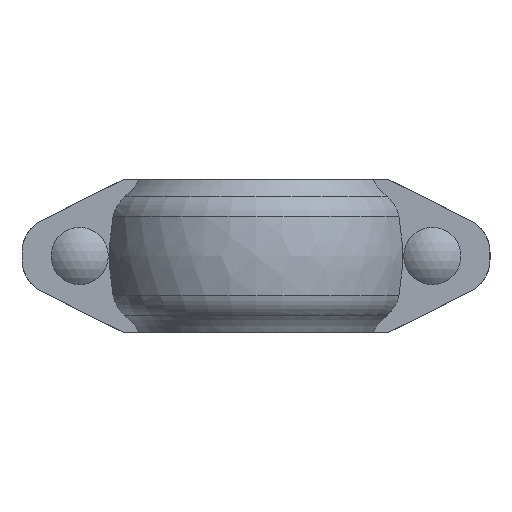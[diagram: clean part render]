
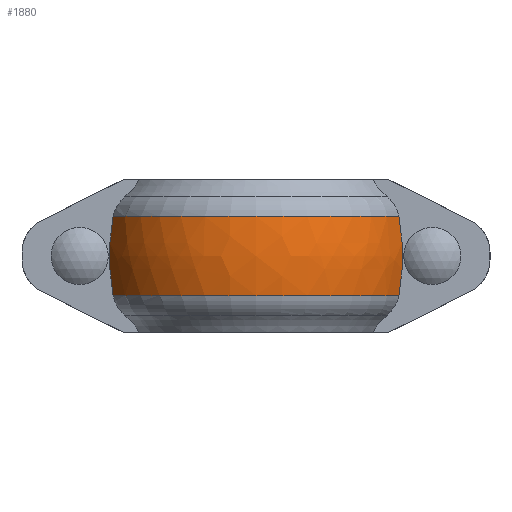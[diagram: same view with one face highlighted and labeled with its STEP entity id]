
A CAD part, front view. The second image highlights one B-rep face of the part: STEP entity #1880.
In plain terms, the highlighted free-form (B-spline) face has degree [2, 2] with [3, 5] control points.
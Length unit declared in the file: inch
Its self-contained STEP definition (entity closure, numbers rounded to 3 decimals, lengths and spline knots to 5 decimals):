
#27=(
BOUNDED_SURFACE()
B_SPLINE_SURFACE(2,2,((#3381,#3382,#3383,#3384,#3385),(#3386,#3387,#3388,
#3389,#3390),(#3391,#3392,#3393,#3394,#3395)),.UNSPECIFIED.,.F.,.F.,.F.)
B_SPLINE_SURFACE_WITH_KNOTS((3,3),(3,2,3),(-0.17342,0.17342),
(0.3769,1.5708,2.76469),.UNSPECIFIED.)
GEOMETRIC_REPRESENTATION_ITEM()
RATIONAL_B_SPLINE_SURFACE(((1.,0.827,1.,0.827,1.),
(0.985,0.815,0.985,0.815,
0.985),(1.,0.827,1.,0.827,1.)))
REPRESENTATION_ITEM('')
SURFACE()
);
#62=B_SPLINE_CURVE_WITH_KNOTS('',3,(#3114,#3115,#3116,#3117,#3118,#3119,
#3120,#3121,#3122,#3123),.UNSPECIFIED.,.F.,.F.,(4,2,2,2,4),(6.95694,
7.26357,8.19222,9.12086,9.42749),
 .UNSPECIFIED.);
#72=B_SPLINE_CURVE_WITH_KNOTS('',3,(#3244,#3245,#3246,#3247,#3248,#3249,
#3250,#3251,#3252,#3253),.UNSPECIFIED.,.F.,.F.,(4,2,2,2,4),(23.34137,
23.648,24.57665,25.5053,25.81192),
 .UNSPECIFIED.);
#236=FACE_OUTER_BOUND('',#341,.T.);
#341=EDGE_LOOP('',(#1665,#1666,#1667,#1668));
#696=CIRCLE('',#2096,2.02);
#701=CIRCLE('',#2107,2.02);
#855=VERTEX_POINT('',#3100);
#856=VERTEX_POINT('',#3113);
#870=VERTEX_POINT('',#3230);
#871=VERTEX_POINT('',#3243);
#1097=EDGE_CURVE('',#856,#855,#62,.T.);
#1118=EDGE_CURVE('',#871,#870,#72,.T.);
#1137=EDGE_CURVE('',#871,#855,#696,.T.);
#1142=EDGE_CURVE('',#870,#856,#701,.T.);
#1665=ORIENTED_EDGE('',*,*,#1097,.T.);
#1666=ORIENTED_EDGE('',*,*,#1137,.F.);
#1667=ORIENTED_EDGE('',*,*,#1118,.T.);
#1668=ORIENTED_EDGE('',*,*,#1142,.T.);
#1880=ADVANCED_FACE('',(#236),#27,.F.);
#2096=AXIS2_PLACEMENT_3D('',#3369,#2588,#2589);
#2107=AXIS2_PLACEMENT_3D('',#3380,#2610,#2611);
#2588=DIRECTION('center_axis',(0.,0.,-1.));
#2589=DIRECTION('ref_axis',(1.,0.,0.));
#2610=DIRECTION('center_axis',(0.,0.,-1.));
#2611=DIRECTION('ref_axis',(1.,0.,0.));
#3100=CARTESIAN_POINT('',(1.87158,0.76,-0.51765));
#3113=CARTESIAN_POINT('',(1.87158,0.76,0.51765));
#3114=CARTESIAN_POINT('Ctrl Pts',(1.87158,0.76,0.51765));
#3115=CARTESIAN_POINT('Ctrl Pts',(1.87969,0.76,0.47475));
#3116=CARTESIAN_POINT('Ctrl Pts',(1.88686,0.76,0.43125));
#3117=CARTESIAN_POINT('Ctrl Pts',(1.91154,0.76,0.25545));
#3118=CARTESIAN_POINT('Ctrl Pts',(1.92006,0.76,0.12187));
#3119=CARTESIAN_POINT('Ctrl Pts',(1.92006,0.76,-0.12187));
#3120=CARTESIAN_POINT('Ctrl Pts',(1.91154,0.76,-0.25545));
#3121=CARTESIAN_POINT('Ctrl Pts',(1.88686,0.76,-0.43125));
#3122=CARTESIAN_POINT('Ctrl Pts',(1.87969,0.76,-0.47475));
#3123=CARTESIAN_POINT('Ctrl Pts',(1.87158,0.76,-0.51765));
#3230=CARTESIAN_POINT('',(-1.87158,0.76,0.51765));
#3243=CARTESIAN_POINT('',(-1.87158,0.76,-0.51765));
#3244=CARTESIAN_POINT('Ctrl Pts',(-1.87158,0.76,-0.51765));
#3245=CARTESIAN_POINT('Ctrl Pts',(-1.87969,0.76,-0.47475));
#3246=CARTESIAN_POINT('Ctrl Pts',(-1.88686,0.76,-0.43125));
#3247=CARTESIAN_POINT('Ctrl Pts',(-1.91154,0.76,-0.25545));
#3248=CARTESIAN_POINT('Ctrl Pts',(-1.92006,0.76,-0.12187));
#3249=CARTESIAN_POINT('Ctrl Pts',(-1.92006,0.76,0.12187));
#3250=CARTESIAN_POINT('Ctrl Pts',(-1.91154,0.76,0.25545));
#3251=CARTESIAN_POINT('Ctrl Pts',(-1.88686,0.76,0.43125));
#3252=CARTESIAN_POINT('Ctrl Pts',(-1.87969,0.76,0.47475));
#3253=CARTESIAN_POINT('Ctrl Pts',(-1.87158,0.76,0.51765));
#3369=CARTESIAN_POINT('Origin',(0.,0.,-0.51765));
#3380=CARTESIAN_POINT('Origin',(0.,0.,0.51765));
#3381=CARTESIAN_POINT('Ctrl Pts',(-1.87822,0.74344,0.51765));
#3382=CARTESIAN_POINT('Ctrl Pts',(-1.37293,2.02,0.51765));
#3383=CARTESIAN_POINT('Ctrl Pts',(0.,2.02,0.51765));
#3384=CARTESIAN_POINT('Ctrl Pts',(1.37293,2.02,0.51765));
#3385=CARTESIAN_POINT('Ctrl Pts',(1.87822,0.74344,0.51765));
#3386=CARTESIAN_POINT('Ctrl Pts',(-1.96253,0.77681,0.));
#3387=CARTESIAN_POINT('Ctrl Pts',(-1.43456,2.11068,0.));
#3388=CARTESIAN_POINT('Ctrl Pts',(0.,2.11068,0.));
#3389=CARTESIAN_POINT('Ctrl Pts',(1.43456,2.11068,0.));
#3390=CARTESIAN_POINT('Ctrl Pts',(1.96253,0.77681,0.));
#3391=CARTESIAN_POINT('Ctrl Pts',(-1.87822,0.74344,-0.51765));
#3392=CARTESIAN_POINT('Ctrl Pts',(-1.37293,2.02,-0.51765));
#3393=CARTESIAN_POINT('Ctrl Pts',(0.,2.02,-0.51765));
#3394=CARTESIAN_POINT('Ctrl Pts',(1.37293,2.02,-0.51765));
#3395=CARTESIAN_POINT('Ctrl Pts',(1.87822,0.74344,-0.51765));
